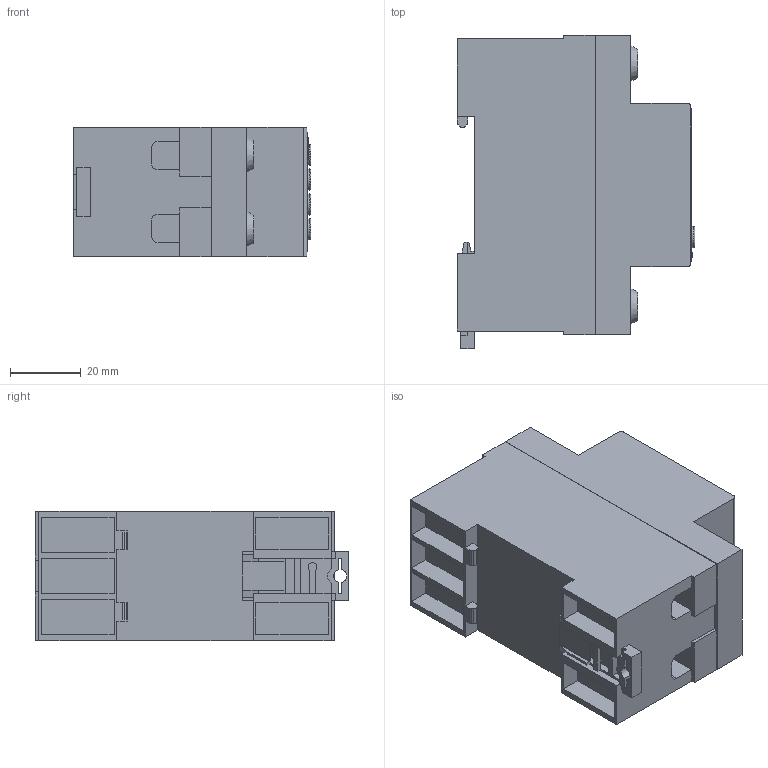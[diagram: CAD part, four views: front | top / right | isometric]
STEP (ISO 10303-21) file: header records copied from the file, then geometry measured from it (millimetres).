
FILE_DESCRIPTION(('FreeCAD Model'),'2;1');
FILE_NAME('Open CASCADE Shape Model','2022-09-05T14:40:11',( 'Engenharia Meltaltex'),('Engenharia Meltaltex'), 'Open CASCADE STEP processor 7.5','FreeCAD','Unknown');
FILE_SCHEMA(('AUTOMOTIVE_DESIGN { 1 0 10303 214 1 1 1 1 }'));
Length unit declared in the file: millimetre
Products named in the file (9): AVP; Parafusos; M3x009; M3x010; M3x011; M3x012; Cut; Presilha050; Logo Pronto032
Assembly tree (8 placements, depth 3):
  AVP
    Parafusos
      M3x009
      M3x010
      M3x011
      M3x012
    Cut
    Presilha050
    Logo Pronto032
Bounding box: 67.1 x 88.5 x 36.5 mm (x, y, z)
Volume: 161683.3 mm3; surface area: 32949 mm2
Topology: 14 solids, 14 shells, 768 faces, 2049 edges, 1314 vertices
Faces by surface type: cylinder 314, plane 262, bspline 104, cone 68, torus 20
Full cylindrical faces by diameter (mm): 3 x4, 6 x4, 6.5 x4, 8 x4
Entity records: 35132 total; most frequent: CARTESIAN_POINT 16866, ORIENTED_EDGE 4050, DIRECTION 2837, EDGE_CURVE 2025, VERTEX_POINT 1314, AXIS2_PLACEMENT_3D 961, LINE 915, VECTOR 915
